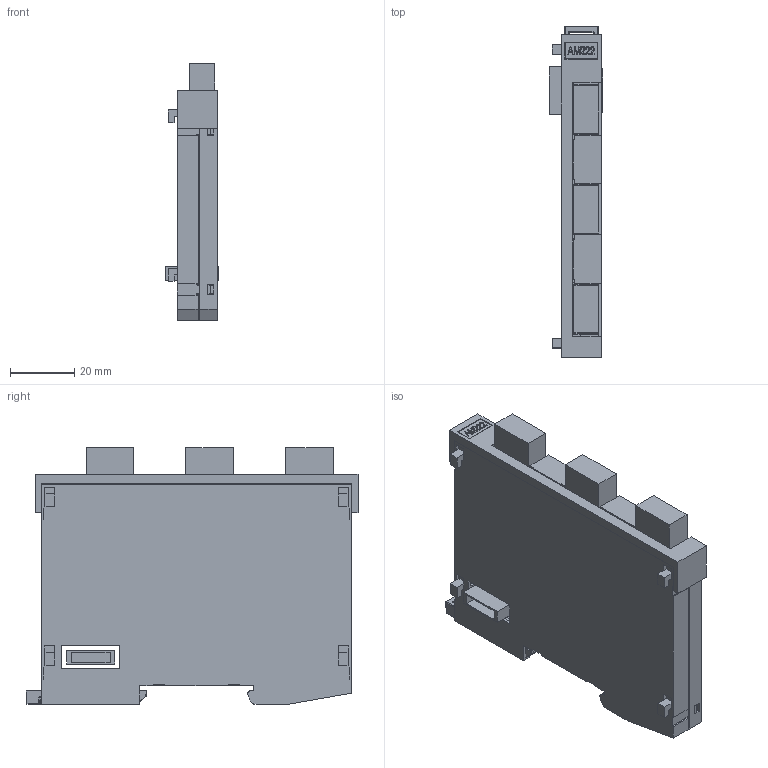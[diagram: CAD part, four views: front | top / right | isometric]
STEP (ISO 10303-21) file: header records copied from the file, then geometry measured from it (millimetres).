
FILE_DESCRIPTION (( 'STEP AP214' ), '1' );
FILE_NAME ('AM222.STEP', '2015-08-18T09:53:11', ( 'SIGMATEK GmbH & Co KG' ), ( 'SIGMATEK GmbH & Co KG' ), 'SwSTEP 2.0', 'SolidWorks 2013', '' );
FILE_SCHEMA (( 'AUTOMOTIVE_DESIGN' ));
Length unit declared in the file: millimetre
Products named in the file (12): S-Dias Schale rechts_f Suport; S-Dias Schale links_f Suport; 4110251342_MF 10-5 MC CABUR_1854510000; AM222; Steckerabdeckung_Var 9; LP_AM222; Dummy_4110262104 4pol.Federkraftstecker f.2reih 1952283; Dummy_4110251205 4pol.Minicombicon-Grundgehäuse RM3,5 1937512; Dummy_4080225346 Erni Stift; Dummy_4080225345 Erni Buchse; S-Dias Rasthaken 20130313; Schieber_f Suport
Assembly tree (16 placements, depth 3):
  AM222
    4110251342_MF 10-5 MC CABUR_1854510000
    S-Dias Schale links_f Suport
    S-Dias Schale rechts_f Suport
    Schieber_f Suport
    S-Dias Rasthaken 20130313
    LP_AM222
      Dummy_4080225345 Erni Buchse
      Dummy_4080225346 Erni Stift
      Dummy_4110251205 4pol.Minicombicon-Grundgehäuse RM3,5 1937512  x3
      Dummy_4110262104 4pol.Federkraftstecker f.2reih 1952283  x3
    Steckerabdeckung_Var 9  x2
Bounding box: 16.8 x 103.61 x 80.15 mm (x, y, z)
Volume: 29828.7 mm3; surface area: 45048.3 mm2
Topology: 15 solids, 15 shells, 983 faces, 2829 edges, 1874 vertices
Faces by surface type: plane 703, cylinder 142, bspline 82, cone 28, torus 15, sphere 13
Entity records: 36431 total; most frequent: CARTESIAN_POINT 9568, ORIENTED_EDGE 5152, DIRECTION 3971, EDGE_CURVE 2576, VECTOR 1855, LINE 1855, VERTEX_POINT 1712, AXIS2_PLACEMENT_3D 1058
